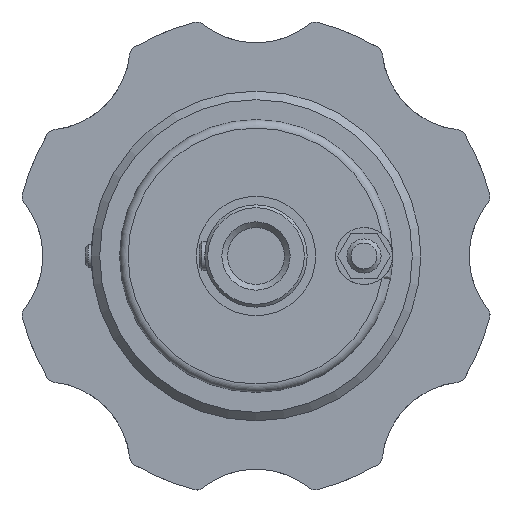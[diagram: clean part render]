
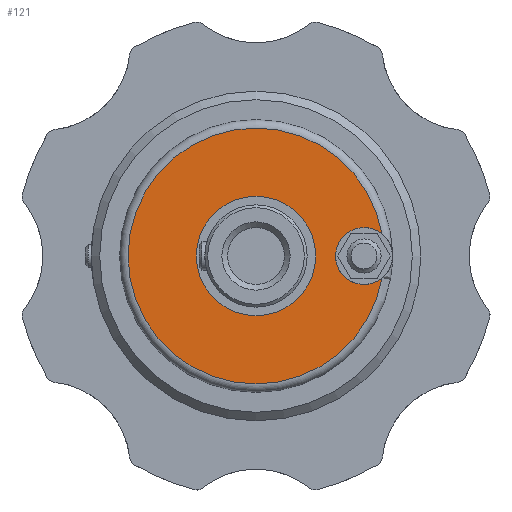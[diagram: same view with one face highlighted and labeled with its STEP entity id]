
A CAD part, left-side view. The second image highlights one B-rep face of the part: STEP entity #121.
In plain terms, the highlighted planar face has unit normal (-1, 0, 0).
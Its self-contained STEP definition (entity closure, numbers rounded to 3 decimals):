
#121 = ADVANCED_FACE( '', ( #284, #285 ), #286, .F. );
#284 = FACE_OUTER_BOUND( '', #514, .T. );
#285 = FACE_BOUND( '', #515, .T. );
#286 = PLANE( '', #516 );
#514 = EDGE_LOOP( '', ( #964, #965 ) );
#515 = EDGE_LOOP( '', ( #966 ) );
#516 = AXIS2_PLACEMENT_3D( '', #967, #968, #969 );
#964 = ORIENTED_EDGE( '', *, *, #1486, .F. );
#965 = ORIENTED_EDGE( '', *, *, #1490, .F. );
#966 = ORIENTED_EDGE( '', *, *, #1519, .T. );
#967 = CARTESIAN_POINT( '', ( 11.1, 10.5, 0. ) );
#968 = DIRECTION( '', ( 1., 0., 0. ) );
#969 = DIRECTION( '', ( 0., 0., -1. ) );
#1486 = EDGE_CURVE( '', #1771, #1773, #1774, .T. );
#1490 = EDGE_CURVE( '', #1773, #1771, #1780, .F. );
#1519 = EDGE_CURVE( '', #1830, #1830, #1831, .T. );
#1771 = VERTEX_POINT( '', #2508 );
#1773 = VERTEX_POINT( '', #2519 );
#1774 = CIRCLE( '', #2520, 22.5 );
#1780 = CIRCLE( '', #2535, 5. );
#1830 = VERTEX_POINT( '', #2660 );
#1831 = CIRCLE( '', #2661, 10.5 );
#2508 = CARTESIAN_POINT( '', ( 11.1, -22.164, -3.871 ) );
#2519 = CARTESIAN_POINT( '', ( 11.1, -22.164, 3.871 ) );
#2520 = AXIS2_PLACEMENT_3D( '', #3121, #3122, #3123 );
#2535 = AXIS2_PLACEMENT_3D( '', #3130, #3131, #3132 );
#2660 = CARTESIAN_POINT( '', ( 11.1, 0., -10.5 ) );
#2661 = AXIS2_PLACEMENT_3D( '', #3178, #3179, #3180 );
#3121 = CARTESIAN_POINT( '', ( 11.1, 0., 0. ) );
#3122 = DIRECTION( '', ( 1., 0., 0. ) );
#3123 = DIRECTION( '', ( 0., 0., -1. ) );
#3130 = CARTESIAN_POINT( '', ( 11.1, -19., 0. ) );
#3131 = DIRECTION( '', ( 1., 0., 0. ) );
#3132 = DIRECTION( '', ( 0., 0., -1. ) );
#3178 = CARTESIAN_POINT( '', ( 11.1, 0., 0. ) );
#3179 = DIRECTION( '', ( 1., 0., 0. ) );
#3180 = DIRECTION( '', ( 0., 0., -1. ) );
